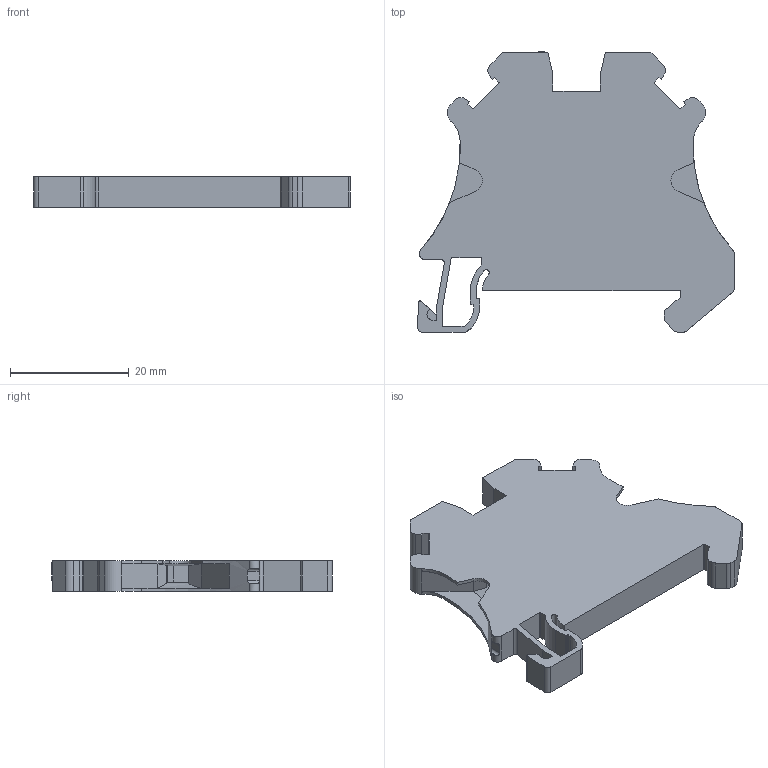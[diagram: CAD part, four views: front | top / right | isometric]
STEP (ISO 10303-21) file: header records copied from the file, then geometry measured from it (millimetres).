
FILE_DESCRIPTION (( 'STEP AP214' ), '1' );
FILE_NAME ('TUR-2.5R-BU.STEP', '2025-04-09T11:29:43', ( '' ), ( '' ), 'SwSTEP 2.0', 'SolidWorks 2022', '' );
FILE_SCHEMA (( 'AUTOMOTIVE_DESIGN' ));
Length unit declared in the file: millimetre
Products named in the file (1): TUR-2.5R-BU
Bounding box: 53.3 x 47.24 x 5.2 mm (x, y, z)
Volume: 6793.6 mm3; surface area: 6316.6 mm2
Topology: 3 solids, 3 shells, 264 faces, 730 edges, 481 vertices
Faces by surface type: plane 174, cylinder 76, torus 8, cone 4, bspline 2
Full cylindrical faces by diameter (mm): 1.9 x2, 2.5 x2, 2.8 x2, 3.6 x2
Entity records: 9303 total; most frequent: CARTESIAN_POINT 2224, ORIENTED_EDGE 1410, DIRECTION 1341, EDGE_CURVE 705, VECTOR 519, LINE 519, VERTEX_POINT 472, AXIS2_PLACEMENT_3D 411
